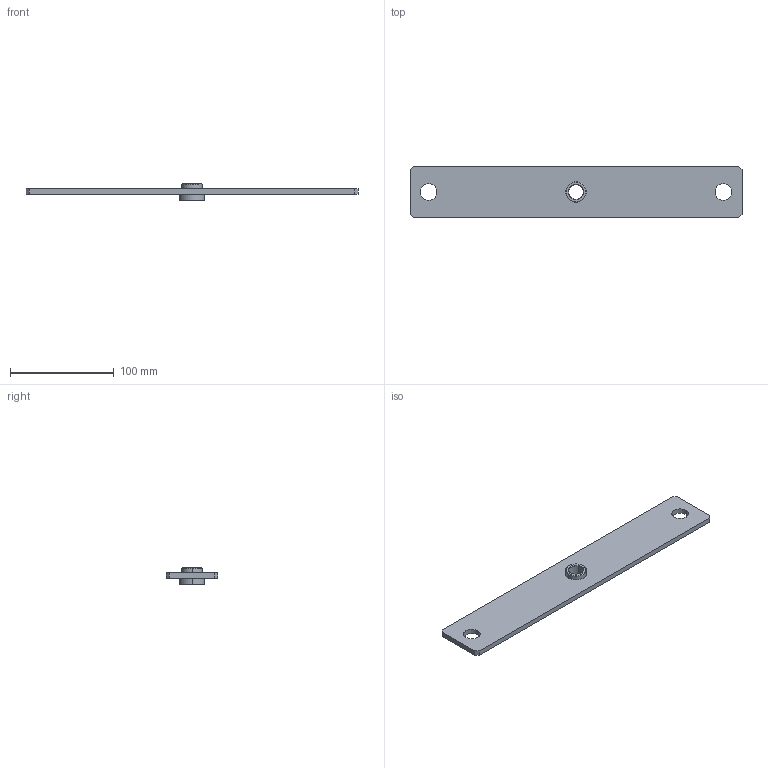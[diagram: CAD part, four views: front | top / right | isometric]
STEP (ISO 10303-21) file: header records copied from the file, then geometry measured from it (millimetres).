
FILE_DESCRIPTION(('CATIA V5 STEP Exchange'),'2;1');
FILE_NAME('D:\孙国\气囊类\2.0小气囊\STP\扣合工装\GZ03-GDB 固定板.stp','2025-04-17T06:20:23+00:00',('none'),('none'),'CATIA Version 5 Release 20 GA (IN-10)','CATIA V5 STEP AP214','none');
FILE_SCHEMA(('AUTOMOTIVE_DESIGN { 1 0 10303 214 1 1 1 1 }'));
Length unit declared in the file: millimetre
Products named in the file (1): 固定支架
Bounding box: 320 x 50 x 16 mm (x, y, z)
Volume: 79760.4 mm3; surface area: 37349.8 mm2
Topology: 2 solids, 2 shells, 31 faces, 72 edges, 46 vertices
Faces by surface type: plane 13, cylinder 12, cone 6
Entity records: 872 total; most frequent: CARTESIAN_POINT 144, ORIENTED_EDGE 144, DIRECTION 122, EDGE_CURVE 72, AXIS2_PLACEMENT_3D 56, VERTEX_POINT 46, VECTOR 42, LINE 42
